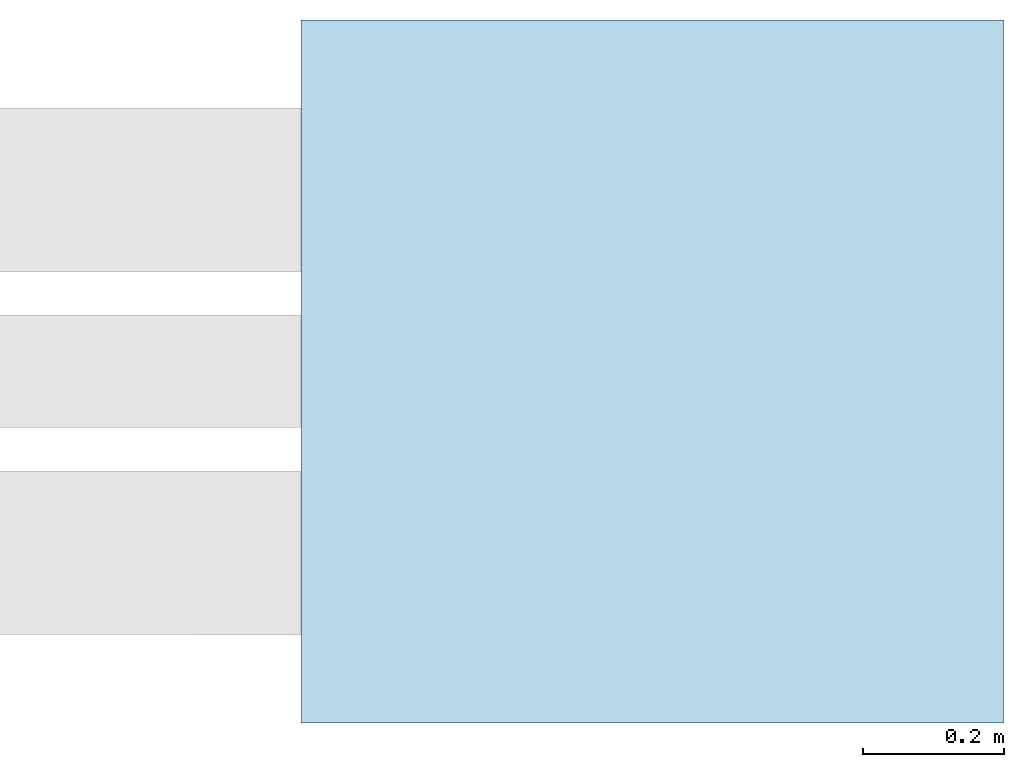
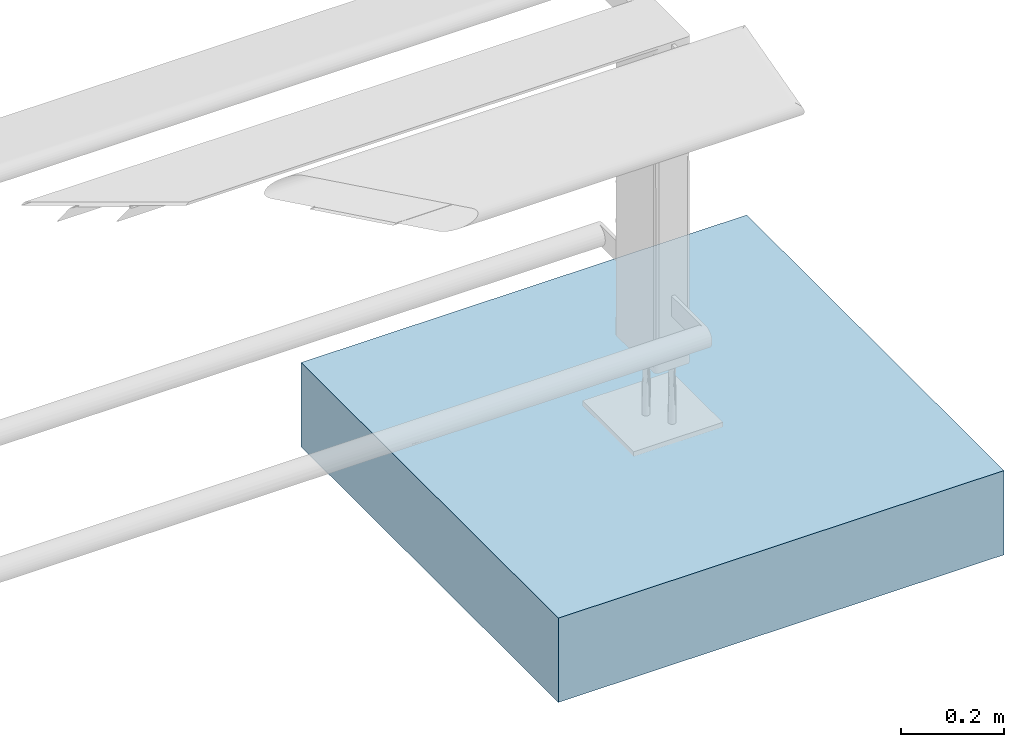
# One storey, incomplete: 1 slab.
"""IFC4 building model written with IfcOpenShell, lengths in metres."""

from ifc_helpers import new_model, entity, si_unit, converted_unit, direction, frame, frame_2d, origin, place, context, subcontext, project, spatial, rectangle, extrude, material, type_object, element, save


model = new_model("IFC4")

# Units and contexts
model_context = context("Model", 3, precision=1e-05, world=origin(), true_north=direction((6.123031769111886e-17, 1.0)))
body_context = subcontext(model_context, "Body", "Model", "MODEL_VIEW")
ifc_project = project(units=[si_unit("LENGTHUNIT", "METRE"), converted_unit("PLANEANGLEUNIT", "DEGREE", entity("IfcPlaneAngleMeasure", 0.017453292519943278), si_unit("PLANEANGLEUNIT", "RADIAN"), dimensions=[0, 0, 0, 0, 0, 0, 0]), si_unit("AREAUNIT", "SQUARE_METRE")], contexts=[model_context])

# Site, building, storey
site_placement = place(None, origin())
site = spatial("IfcSite", under=ifc_project, at=site_placement, Name="Default", CompositionType="ELEMENT")
building_placement = place(site_placement, origin())
building = spatial("IfcBuilding", under=site, at=building_placement, CompositionType="ELEMENT")
storey_placement = place(building_placement, origin())
storey = spatial("IfcBuildingStorey", under=building, at=storey_placement, Name="Ebene 0", CompositionType="ELEMENT", Elevation=0.0)

# Slab
ifc_material = material(Name="DB_Fertigbeton", Category="DB_Beton")
slab_type = type_object("IfcSlabType", Name="DB_Calidum_light_Fundament:DB_Calidum_light_Fundament", PredefinedType="BASESLAB", material=ifc_material)
slab_placement = place(storey_placement, origin())
element("IfcSlab", 1, at=slab_placement, inside=storey, type_object=slab_type, Name="DB_Calidum_light_Fundament:DB_Calidum_light_Fundament", ObjectType="DB_Calidum_light_Fundament:DB_Calidum_light_Fundament", PredefinedType="BASESLAB", context=body_context, shape_type="SweptSolid", body=[
    extrude(rectangle(XDim=0.9999999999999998, YDim=0.9999999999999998, at=frame_2d((0.0, 1.1102230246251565e-16), x_axis=(1.0, 0.0))), frame((1.7500000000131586, 0.0, -0.36199999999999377), z_axis=(0.0, 0.0, 1.0), x_axis=(0.0, 1.0, 0.0)), (0.0, 0.0, 1.0), 0.2),
])

save(model, "model.ifc")
